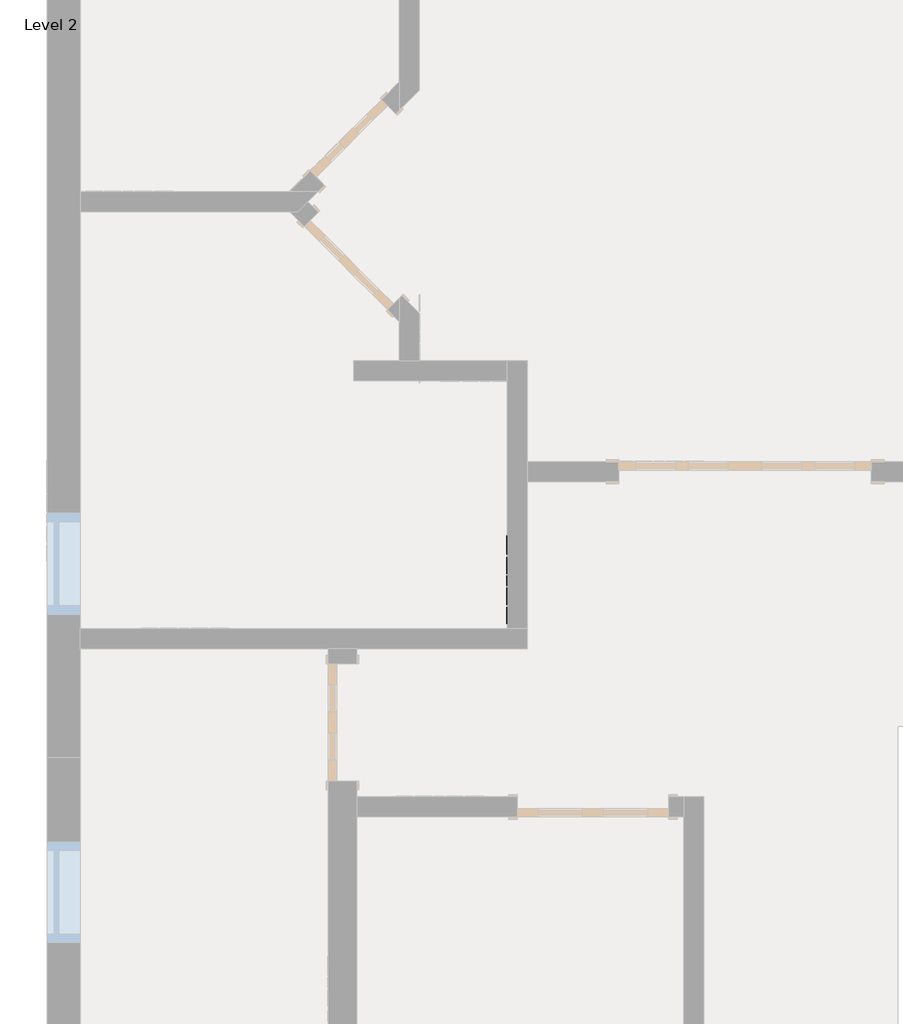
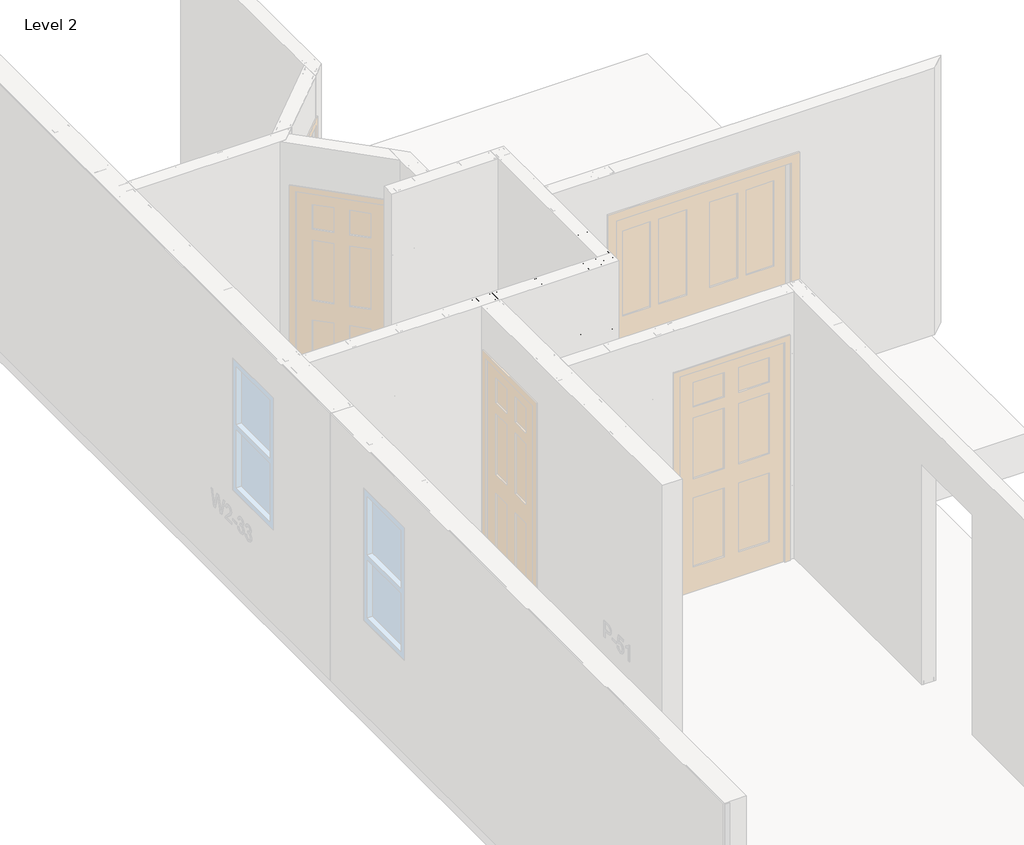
# One storey, part 26 of 46: 9 columns, 1 beam, 1 fastener.
"""IFC4 building model written with IfcOpenShell, lengths in millimetres."""

from ifc_helpers import new_model, si_unit, point, frame, origin, place, context, project, spatial, circle_curve, ellipse_curve, trimmed, transform, mapped, element, save
from ifc_brep_helpers import plane_surface, extruded_surface, advanced_brep
from components import beam_350nf150_33_2afbb7e6, column_350nf150_33_a93e9d8a, panellabel_b67d6c40

model = new_model("IFC4")

# Units and contexts
model_context = context("Model", 3, world=origin())
ifc_project = project(units=[si_unit("LENGTHUNIT", "METRE", prefix="MILLI")], contexts=[model_context])

# Site, building, storey
site = spatial("IfcSite", under=ifc_project)
building = spatial("IfcBuilding", under=site)
storey = spatial("IfcBuildingStorey", under=building, Name="Level 2", Elevation=3060.7)

# Beam
placement = place(None, origin())
beam_350nf150_33_shape = beam_350nf150_33_2afbb7e6(model_context)
element("IfcBeam", 1, ObjectType="BIMSF-SSMA-S : 350NF150-33", at=placement, inside=storey, context=model_context, shape_type="MappedRepresentation", body=[
    mapped(beam_350nf150_33_shape, transform((-12473.1163349, 9390.189721, 3076.575), x_axis=(0.0, 1.0000000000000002, 0.0), y_axis=(0.0, 0.0, -1.0000000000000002), z_axis=(-1.0000000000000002, 0.0, 0.0))),
])

# Columns
element("IfcColumn", 2, ObjectType="BIMSF-SSMA-S-Column : 350NF150-33", at=placement, inside=storey, context=model_context, shape_type="AdvancedBrep", body=[
    advanced_brep(
    [(-12517.5663349, 8671.052221, 3061.5929687), (-12517.5663349, 8582.152221, 3061.5929687), (-12555.6663349, 8582.152221, 3061.5929687), (-12555.6663349, 8587.8097367, 3061.5929687), (-12554.7840191, 8587.8097367, 3061.5929687), (-12554.7840191, 8583.0345367, 3061.5929687), (-12518.4486507, 8583.0345367, 3061.5929687), (-12518.4486507, 8670.1699052, 3061.5929687), (-12554.7840191, 8670.1699052, 3061.5929687), (-12554.7840191, 8665.3947052, 3061.5929687), (-12555.6663349, 8665.3947052, 3061.5929687), (-12555.6663349, 8671.052221, 3061.5929687), (-12517.5663349, 8671.052221, 5523.6070313), (-12517.5663349, 8582.152221, 5523.6070313), (-12517.5663349, 8613.902221, 3671.1929687), (-12517.5663349, 8639.302221, 3671.1929687), (-12517.5663349, 8613.902221, 4890.3929688), (-12517.5663349, 8639.302221, 4890.3929688), (-12555.6663349, 8582.152221, 5523.6070313), (-12555.6663349, 8587.8097367, 5523.6070313), (-12554.7840191, 8587.8097367, 5523.6070313), (-12554.7840191, 8583.0345367, 5523.6070313), (-12518.4486507, 8583.0345367, 5523.6070313), (-12518.4486507, 8670.1699052, 5523.6070313), (-12518.4486507, 8639.302221, 3671.1929687), (-12518.4486507, 8613.902221, 3671.1929687), (-12518.4486507, 8639.302221, 4890.3929688), (-12518.4486507, 8613.902221, 4890.3929688), (-12554.7840191, 8670.1699052, 5523.6070313), (-12554.7840191, 8665.3947052, 5523.6070313), (-12555.6663349, 8665.3947052, 5523.6070313), (-12555.6663349, 8671.052221, 5523.6070313)],
    [
        (0, 1),
        (1, 2),
        (2, 3),
        (3, 4),
        (4, 5),
        (5, 6),
        (6, 7),
        (7, 8),
        (8, 9),
        (9, 10),
        (10, 11),
        (11, 0),
        (0, 12),
        (12, 13),
        (13, 1),
        (14, 15, circle_curve(frame((-12517.5663349, 8626.602221, 3671.1929687), z_axis=(-1.0, 0.0, 0.0), x_axis=(0.0, -1.0, 0.0)), 12.7)),
        (15, 14, circle_curve(frame((-12517.5663349, 8626.602221, 3671.1929687), z_axis=(-1.0, 0.0, 0.0), x_axis=(0.0, -1.0, 0.0)), 12.7)),
        (16, 17, circle_curve(frame((-12517.5663349, 8626.602221, 4890.3929687), z_axis=(-1.0, 0.0, 0.0), x_axis=(0.0, -1.0, 0.0)), 12.7)),
        (17, 16, circle_curve(frame((-12517.5663349, 8626.602221, 4890.3929687), z_axis=(-1.0, 0.0, 0.0), x_axis=(0.0, -1.0, 0.0)), 12.7)),
        (13, 18),
        (18, 2),
        (18, 19),
        (19, 3),
        (19, 20),
        (20, 4),
        (20, 21),
        (21, 5),
        (21, 22),
        (22, 6),
        (22, 23),
        (23, 7),
        (24, 25, circle_curve(frame((-12518.4486507, 8626.602221, 3671.1929688), z_axis=(1.0, 0.0, 0.0), x_axis=(0.0, -1.0, 0.0)), 12.7)),
        (25, 24, circle_curve(frame((-12518.4486507, 8626.602221, 3671.1929688), z_axis=(1.0, 0.0, 0.0), x_axis=(0.0, -1.0, 0.0)), 12.7)),
        (26, 27, circle_curve(frame((-12518.4486507, 8626.602221, 4890.3929687), z_axis=(1.0, 0.0, 0.0), x_axis=(0.0, -1.0, 0.0)), 12.7)),
        (27, 26, circle_curve(frame((-12518.4486507, 8626.602221, 4890.3929687), z_axis=(1.0, 0.0, 0.0), x_axis=(0.0, -1.0, 0.0)), 12.7)),
        (23, 28),
        (28, 8),
        (28, 29),
        (29, 9),
        (29, 30),
        (30, 10),
        (30, 31),
        (31, 11),
        (31, 12),
        (24, 15),
        (14, 25),
        (26, 17),
        (16, 27),
    ],
    [
        plane_surface(frame((-12517.5663349, 8671.052221, 3061.5929687), z_axis=(0.0, 0.0, -1.0), x_axis=(1.0, 0.0, 0.0))),
        plane_surface(frame((-12517.5663349, 8582.152221, 5523.6070313), z_axis=(1.0, 0.0, 0.0), x_axis=(0.0, 0.0, -1.0))),
        plane_surface(frame((-12555.6663349, 8582.152221, 5523.6070313), z_axis=(0.0, -1.0, 0.0), x_axis=(0.0, 0.0, -1.0))),
        plane_surface(frame((-12555.6663349, 8587.8097367, 5523.6070313), z_axis=(-1.0, 0.0, 0.0), x_axis=(0.0, 0.0, -1.0))),
        plane_surface(frame((-12554.7840191, 8587.8097367, 5523.6070313), z_axis=(0.0, 1.0, 0.0), x_axis=(0.0, 0.0, -1.0))),
        plane_surface(frame((-12554.7840191, 8583.0345367, 5523.6070313), z_axis=(1.0, 0.0, 0.0), x_axis=(0.0, 0.0, -1.0))),
        plane_surface(frame((-12518.4486507, 8583.0345367, 5523.6070313), z_axis=(0.0, 1.0, 0.0), x_axis=(0.0, 0.0, -1.0))),
        plane_surface(frame((-12518.4486507, 8670.1699052, 5523.6070313), z_axis=(-1.0, 0.0, 0.0), x_axis=(0.0, 0.0, -1.0))),
        plane_surface(frame((-12554.7840191, 8670.1699052, 5523.6070313), z_axis=(0.0, -1.0, 0.0), x_axis=(0.0, 0.0, -1.0))),
        plane_surface(frame((-12554.7840191, 8665.3947052, 5523.6070313), z_axis=(1.0, 0.0, 0.0), x_axis=(0.0, 0.0, -1.0))),
        plane_surface(frame((-12555.6663349, 8665.3947052, 5523.6070313), z_axis=(0.0, -1.0, 0.0), x_axis=(0.0, 0.0, -1.0))),
        plane_surface(frame((-12555.6663349, 8671.052221, 5523.6070313), z_axis=(-1.0, 0.0, 0.0), x_axis=(0.0, 0.0, -1.0))),
        plane_surface(frame((-12517.5663349, 8671.052221, 5523.6070313), z_axis=(0.0, 1.0, 0.0), x_axis=(0.0, 0.0, -1.0))),
        plane_surface(frame((-12517.5663349, 8671.052221, 5523.6070313), z_axis=(0.0, 0.0, 1.0), x_axis=(-1.0, 0.0, 0.0))),
        extruded_surface(trimmed(ellipse_curve(frame((-14998.6303974, 8626.602221, 3671.1929688), z_axis=(1.0, 0.0, 0.0), x_axis=(0.0, -1.0, 0.0)), 12.7, 12.7), [point((-14998.6303974, 8639.302221, 3671.1929688))], [point((-14998.6303974, 8613.902221, 3671.1929688))], True, "CARTESIAN"), (-4924.028125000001, 0.0, 0.0), 4924.028125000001),
        extruded_surface(trimmed(ellipse_curve(frame((-14998.6303974, 8626.602221, 3671.1929688), z_axis=(1.0, 0.0, 0.0), x_axis=(0.0, -1.0, 0.0)), 12.7, 12.7), [point((-14998.6303974, 8613.902221, 3671.1929688))], [point((-14998.6303974, 8639.302221, 3671.1929688))], True, "CARTESIAN"), (-4924.028125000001, 0.0, 0.0), 4924.028125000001),
        extruded_surface(trimmed(ellipse_curve(frame((-14998.6303974, 8626.602221, 4890.3929687), z_axis=(1.0, 0.0, 0.0), x_axis=(0.0, -1.0, 0.0)), 12.7, 12.7), [point((-14998.6303974, 8639.302221, 4890.3929687))], [point((-14998.6303974, 8613.902221, 4890.3929687))], True, "CARTESIAN"), (-4924.028125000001, 0.0, 0.0), 4924.028125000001),
        extruded_surface(trimmed(ellipse_curve(frame((-14998.6303974, 8626.602221, 4890.3929687), z_axis=(1.0, 0.0, 0.0), x_axis=(0.0, -1.0, 0.0)), 12.7, 12.7), [point((-14998.6303974, 8613.902221, 4890.3929687))], [point((-14998.6303974, 8639.302221, 4890.3929687))], True, "CARTESIAN"), (-4924.028125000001, 0.0, 0.0), 4924.028125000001),
    ],
    [
        (0, [[1, 2, 3, 4, 5, 6, 7, 8, 9, 10, 11, 12]]),
        (1, [[-1, 13, 14, 15], [16, 17], [18, 19]]),
        (2, [[-2, -15, 20, 21]]),
        (3, [[-3, -21, 22, 23]]),
        (4, [[-4, -23, 24, 25]]),
        (5, [[-5, -25, 26, 27]]),
        (6, [[-6, -27, 28, 29]]),
        (7, [[-7, -29, 30, 31], [32, 33], [34, 35]]),
        (8, [[-8, -31, 36, 37]]),
        (9, [[-9, -37, 38, 39]]),
        (10, [[-10, -39, 40, 41]]),
        (11, [[-11, -41, 42, 43]]),
        (12, [[-12, -43, 44, -13]]),
        (13, [[-14, -44, -42, -40, -38, -36, -30, -28, -26, -24, -22, -20]]),
        (14, [[45, -16, 46, -32]]),
        (15, [[-45, -33, -46, -17]]),
        (16, [[47, -18, 48, -34]]),
        (17, [[-47, -35, -48, -19]]),
    ],
),
])
element("IfcColumn", 3, ObjectType="BIMSF-SSMA-S-Column : 350NF150-33", at=placement, inside=storey, context=model_context, shape_type="AdvancedBrep", body=[
    advanced_brep(
    [(-13517.6913349, 8582.152221, 3061.5929687), (-13517.6913349, 8671.052221, 3061.5929687), (-13479.5913349, 8671.052221, 3061.5929687), (-13479.5913349, 8665.3947052, 3061.5929687), (-13480.4736507, 8665.3947052, 3061.5929687), (-13480.4736507, 8670.1699052, 3061.5929687), (-13516.8090191, 8670.1699052, 3061.5929687), (-13516.8090191, 8583.0345367, 3061.5929687), (-13480.4736507, 8583.0345367, 3061.5929687), (-13480.4736507, 8587.8097367, 3061.5929687), (-13479.5913349, 8587.8097367, 3061.5929687), (-13479.5913349, 8582.152221, 3061.5929687), (-13517.6913349, 8582.152221, 5523.6070313), (-13517.6913349, 8671.052221, 5523.6070313), (-13517.6913349, 8639.302221, 3671.1929688), (-13517.6913349, 8613.902221, 3671.1929688), (-13517.6913349, 8639.302221, 4890.3929687), (-13517.6913349, 8613.902221, 4890.3929687), (-13479.5913349, 8671.052221, 5523.6070313), (-13479.5913349, 8665.3947052, 5523.6070313), (-13480.4736507, 8665.3947052, 5523.6070313), (-13480.4736507, 8670.1699052, 5523.6070313), (-13516.8090191, 8670.1699052, 5523.6070313), (-13516.8090191, 8583.0345367, 5523.6070313), (-13516.8090191, 8613.902221, 3671.1929688), (-13516.8090191, 8639.302221, 3671.1929688), (-13516.8090191, 8613.902221, 4890.3929687), (-13516.8090191, 8639.302221, 4890.3929687), (-13480.4736507, 8583.0345367, 5523.6070313), (-13480.4736507, 8587.8097367, 5523.6070313), (-13479.5913349, 8587.8097367, 5523.6070313), (-13479.5913349, 8582.152221, 5523.6070313)],
    [
        (0, 1),
        (1, 2),
        (2, 3),
        (3, 4),
        (4, 5),
        (5, 6),
        (6, 7),
        (7, 8),
        (8, 9),
        (9, 10),
        (10, 11),
        (11, 0),
        (0, 12),
        (12, 13),
        (13, 1),
        (14, 15, circle_curve(frame((-13517.6913349, 8626.602221, 3671.1929688), z_axis=(1.0, 0.0, 0.0), x_axis=(0.0, 1.0, 0.0)), 12.7)),
        (15, 14, circle_curve(frame((-13517.6913349, 8626.602221, 3671.1929688), z_axis=(1.0, 0.0, 0.0), x_axis=(0.0, 1.0, 0.0)), 12.7)),
        (16, 17, circle_curve(frame((-13517.6913349, 8626.602221, 4890.3929687), z_axis=(1.0, 0.0, 0.0), x_axis=(0.0, 1.0, 0.0)), 12.7)),
        (17, 16, circle_curve(frame((-13517.6913349, 8626.602221, 4890.3929687), z_axis=(1.0, 0.0, 0.0), x_axis=(0.0, 1.0, 0.0)), 12.7)),
        (13, 18),
        (18, 2),
        (18, 19),
        (19, 3),
        (19, 20),
        (20, 4),
        (20, 21),
        (21, 5),
        (21, 22),
        (22, 6),
        (22, 23),
        (23, 7),
        (24, 25, circle_curve(frame((-13516.8090191, 8626.602221, 3671.1929688), z_axis=(-1.0, 0.0, 0.0), x_axis=(0.0, 1.0, 0.0)), 12.7)),
        (25, 24, circle_curve(frame((-13516.8090191, 8626.602221, 3671.1929688), z_axis=(-1.0, 0.0, 0.0), x_axis=(0.0, 1.0, 0.0)), 12.7)),
        (26, 27, circle_curve(frame((-13516.8090191, 8626.602221, 4890.3929687), z_axis=(-1.0, 0.0, 0.0), x_axis=(0.0, 1.0, 0.0)), 12.7)),
        (27, 26, circle_curve(frame((-13516.8090191, 8626.602221, 4890.3929687), z_axis=(-1.0, 0.0, 0.0), x_axis=(0.0, 1.0, 0.0)), 12.7)),
        (23, 28),
        (28, 8),
        (28, 29),
        (29, 9),
        (29, 30),
        (30, 10),
        (30, 31),
        (31, 11),
        (31, 12),
        (24, 15),
        (14, 25),
        (26, 17),
        (16, 27),
    ],
    [
        plane_surface(frame((-13517.6913349, 8582.152221, 3061.5929687), z_axis=(0.0, 0.0, -1.0), x_axis=(-1.0, 0.0, 0.0))),
        plane_surface(frame((-13517.6913349, 8671.052221, 5523.6070313), z_axis=(-1.0, 0.0, 0.0), x_axis=(0.0, 0.0, -1.0))),
        plane_surface(frame((-13479.5913349, 8671.052221, 5523.6070313), z_axis=(0.0, 1.0, 0.0), x_axis=(0.0, 0.0, -1.0))),
        plane_surface(frame((-13479.5913349, 8665.3947052, 5523.6070313), z_axis=(1.0, 0.0, 0.0), x_axis=(0.0, 0.0, -1.0))),
        plane_surface(frame((-13480.4736507, 8665.3947052, 5523.6070313), z_axis=(0.0, -1.0, 0.0), x_axis=(0.0, 0.0, -1.0))),
        plane_surface(frame((-13480.4736507, 8670.1699052, 5523.6070313), z_axis=(-1.0, 0.0, 0.0), x_axis=(0.0, 0.0, -1.0))),
        plane_surface(frame((-13516.8090191, 8670.1699052, 5523.6070313), z_axis=(0.0, -1.0, 0.0), x_axis=(0.0, 0.0, -1.0))),
        plane_surface(frame((-13516.8090191, 8583.0345367, 5523.6070313), z_axis=(1.0, 0.0, 0.0), x_axis=(0.0, 0.0, -1.0))),
        plane_surface(frame((-13480.4736507, 8583.0345367, 5523.6070313), z_axis=(0.0, 1.0, 0.0), x_axis=(0.0, 0.0, -1.0))),
        plane_surface(frame((-13480.4736507, 8587.8097367, 5523.6070313), z_axis=(-1.0, 0.0, 0.0), x_axis=(0.0, 0.0, -1.0))),
        plane_surface(frame((-13479.5913349, 8587.8097367, 5523.6070313), z_axis=(0.0, 1.0, 0.0), x_axis=(0.0, 0.0, -1.0))),
        plane_surface(frame((-13479.5913349, 8582.152221, 5523.6070313), z_axis=(1.0, 0.0, 0.0), x_axis=(0.0, 0.0, -1.0))),
        plane_surface(frame((-13517.6913349, 8582.152221, 5523.6070313), z_axis=(0.0, -1.0, 0.0), x_axis=(0.0, 0.0, -1.0))),
        plane_surface(frame((-13517.6913349, 8582.152221, 5523.6070313), z_axis=(0.0, 0.0, 1.0), x_axis=(1.0, 0.0, 0.0))),
        extruded_surface(trimmed(ellipse_curve(frame((-11036.6272724, 8626.602221, 3671.1929688), z_axis=(-1.0, 0.0, 0.0), x_axis=(0.0, 1.0, 0.0)), 12.7, 12.7), [point((-11036.6272724, 8613.902221, 3671.1929688))], [point((-11036.6272724, 8639.302221, 3671.1929688))], True, "CARTESIAN"), (4924.028124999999, 0.0, 0.0), 4924.028124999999),
        extruded_surface(trimmed(ellipse_curve(frame((-11036.6272724, 8626.602221, 3671.1929688), z_axis=(-1.0, 0.0, 0.0), x_axis=(0.0, 1.0, 0.0)), 12.7, 12.7), [point((-11036.6272724, 8639.302221, 3671.1929688))], [point((-11036.6272724, 8613.902221, 3671.1929688))], True, "CARTESIAN"), (4924.028124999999, 0.0, 0.0), 4924.028124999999),
        extruded_surface(trimmed(ellipse_curve(frame((-11036.6272724, 8626.602221, 4890.3929687), z_axis=(-1.0, 0.0, 0.0), x_axis=(0.0, 1.0, 0.0)), 12.7, 12.7), [point((-11036.6272724, 8613.902221, 4890.3929687))], [point((-11036.6272724, 8639.302221, 4890.3929687))], True, "CARTESIAN"), (4924.028124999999, 0.0, 0.0), 4924.028124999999),
        extruded_surface(trimmed(ellipse_curve(frame((-11036.6272724, 8626.602221, 4890.3929687), z_axis=(-1.0, 0.0, 0.0), x_axis=(0.0, 1.0, 0.0)), 12.7, 12.7), [point((-11036.6272724, 8639.302221, 4890.3929687))], [point((-11036.6272724, 8613.902221, 4890.3929687))], True, "CARTESIAN"), (4924.028124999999, 0.0, 0.0), 4924.028124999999),
    ],
    [
        (0, [[1, 2, 3, 4, 5, 6, 7, 8, 9, 10, 11, 12]]),
        (1, [[-1, 13, 14, 15], [16, 17], [18, 19]]),
        (2, [[-2, -15, 20, 21]]),
        (3, [[-3, -21, 22, 23]]),
        (4, [[-4, -23, 24, 25]]),
        (5, [[-5, -25, 26, 27]]),
        (6, [[-6, -27, 28, 29]]),
        (7, [[-7, -29, 30, 31], [32, 33], [34, 35]]),
        (8, [[-8, -31, 36, 37]]),
        (9, [[-9, -37, 38, 39]]),
        (10, [[-10, -39, 40, 41]]),
        (11, [[-11, -41, 42, 43]]),
        (12, [[-12, -43, 44, -13]]),
        (13, [[-14, -44, -42, -40, -38, -36, -30, -28, -26, -24, -22, -20]]),
        (14, [[45, -16, 46, -32]]),
        (15, [[-45, -33, -46, -17]]),
        (16, [[47, -18, 48, -34]]),
        (17, [[-47, -35, -48, -19]]),
    ],
),
])
element("IfcColumn", 4, ObjectType="BIMSF-SSMA-S-Column : 350NF150-33", at=placement, inside=storey, context=model_context, shape_type="AdvancedBrep", body=[
    advanced_brep(
    [(-13111.2913349, 8582.152221, 3061.5929687), (-13111.2913349, 8671.052221, 3061.5929687), (-13073.1913349, 8671.052221, 3061.5929687), (-13073.1913349, 8665.3947052, 3061.5929687), (-13074.0736507, 8665.3947052, 3061.5929687), (-13074.0736507, 8670.1699052, 3061.5929687), (-13110.4090191, 8670.1699052, 3061.5929687), (-13110.4090191, 8583.0345367, 3061.5929687), (-13074.0736507, 8583.0345367, 3061.5929687), (-13074.0736507, 8587.8097367, 3061.5929687), (-13073.1913349, 8587.8097367, 3061.5929687), (-13073.1913349, 8582.152221, 3061.5929687), (-13111.2913349, 8582.152221, 5523.6070313), (-13111.2913349, 8671.052221, 5523.6070313), (-13111.2913349, 8639.302221, 3671.1929688), (-13111.2913349, 8613.902221, 3671.1929688), (-13111.2913349, 8639.302221, 4890.3929687), (-13111.2913349, 8613.902221, 4890.3929687), (-13073.1913349, 8671.052221, 5523.6070313), (-13073.1913349, 8665.3947052, 5523.6070313), (-13074.0736507, 8665.3947052, 5523.6070313), (-13074.0736507, 8670.1699052, 5523.6070313), (-13110.4090191, 8670.1699052, 5523.6070313), (-13110.4090191, 8583.0345367, 5523.6070313), (-13110.4090191, 8613.902221, 3671.1929688), (-13110.4090191, 8639.302221, 3671.1929688), (-13110.4090191, 8613.902221, 4890.3929687), (-13110.4090191, 8639.302221, 4890.3929687), (-13074.0736507, 8583.0345367, 5523.6070313), (-13074.0736507, 8587.8097367, 5523.6070313), (-13073.1913349, 8587.8097367, 5523.6070313), (-13073.1913349, 8582.152221, 5523.6070313)],
    [
        (0, 1),
        (1, 2),
        (2, 3),
        (3, 4),
        (4, 5),
        (5, 6),
        (6, 7),
        (7, 8),
        (8, 9),
        (9, 10),
        (10, 11),
        (11, 0),
        (0, 12),
        (12, 13),
        (13, 1),
        (14, 15, circle_curve(frame((-13111.2913349, 8626.602221, 3671.1929688), z_axis=(1.0, 0.0, 0.0), x_axis=(0.0, 1.0, 0.0)), 12.7)),
        (15, 14, circle_curve(frame((-13111.2913349, 8626.602221, 3671.1929688), z_axis=(1.0, 0.0, 0.0), x_axis=(0.0, 1.0, 0.0)), 12.7)),
        (16, 17, circle_curve(frame((-13111.2913349, 8626.602221, 4890.3929687), z_axis=(1.0, 0.0, 0.0), x_axis=(0.0, 1.0, 0.0)), 12.7)),
        (17, 16, circle_curve(frame((-13111.2913349, 8626.602221, 4890.3929687), z_axis=(1.0, 0.0, 0.0), x_axis=(0.0, 1.0, 0.0)), 12.7)),
        (13, 18),
        (18, 2),
        (18, 19),
        (19, 3),
        (19, 20),
        (20, 4),
        (20, 21),
        (21, 5),
        (21, 22),
        (22, 6),
        (22, 23),
        (23, 7),
        (24, 25, circle_curve(frame((-13110.4090191, 8626.602221, 3671.1929688), z_axis=(-1.0, 0.0, 0.0), x_axis=(0.0, 1.0, 0.0)), 12.7)),
        (25, 24, circle_curve(frame((-13110.4090191, 8626.602221, 3671.1929688), z_axis=(-1.0, 0.0, 0.0), x_axis=(0.0, 1.0, 0.0)), 12.7)),
        (26, 27, circle_curve(frame((-13110.4090191, 8626.602221, 4890.3929687), z_axis=(-1.0, 0.0, 0.0), x_axis=(0.0, 1.0, 0.0)), 12.7)),
        (27, 26, circle_curve(frame((-13110.4090191, 8626.602221, 4890.3929687), z_axis=(-1.0, 0.0, 0.0), x_axis=(0.0, 1.0, 0.0)), 12.7)),
        (23, 28),
        (28, 8),
        (28, 29),
        (29, 9),
        (29, 30),
        (30, 10),
        (30, 31),
        (31, 11),
        (31, 12),
        (24, 15),
        (14, 25),
        (26, 17),
        (16, 27),
    ],
    [
        plane_surface(frame((-13111.2913349, 8582.152221, 3061.5929687), z_axis=(0.0, 0.0, -1.0), x_axis=(-1.0, 0.0, 0.0))),
        plane_surface(frame((-13111.2913349, 8671.052221, 5523.6070313), z_axis=(-1.0, 0.0, 0.0), x_axis=(0.0, 0.0, -1.0))),
        plane_surface(frame((-13073.1913349, 8671.052221, 5523.6070313), z_axis=(0.0, 1.0, 0.0), x_axis=(0.0, 0.0, -1.0))),
        plane_surface(frame((-13073.1913349, 8665.3947052, 5523.6070313), z_axis=(1.0, 0.0, 0.0), x_axis=(0.0, 0.0, -1.0))),
        plane_surface(frame((-13074.0736507, 8665.3947052, 5523.6070313), z_axis=(0.0, -1.0, 0.0), x_axis=(0.0, 0.0, -1.0))),
        plane_surface(frame((-13074.0736507, 8670.1699052, 5523.6070313), z_axis=(-1.0, 0.0, 0.0), x_axis=(0.0, 0.0, -1.0))),
        plane_surface(frame((-13110.4090191, 8670.1699052, 5523.6070313), z_axis=(0.0, -1.0, 0.0), x_axis=(0.0, 0.0, -1.0))),
        plane_surface(frame((-13110.4090191, 8583.0345367, 5523.6070313), z_axis=(1.0, 0.0, 0.0), x_axis=(0.0, 0.0, -1.0))),
        plane_surface(frame((-13074.0736507, 8583.0345367, 5523.6070313), z_axis=(0.0, 1.0, 0.0), x_axis=(0.0, 0.0, -1.0))),
        plane_surface(frame((-13074.0736507, 8587.8097367, 5523.6070313), z_axis=(-1.0, 0.0, 0.0), x_axis=(0.0, 0.0, -1.0))),
        plane_surface(frame((-13073.1913349, 8587.8097367, 5523.6070313), z_axis=(0.0, 1.0, 0.0), x_axis=(0.0, 0.0, -1.0))),
        plane_surface(frame((-13073.1913349, 8582.152221, 5523.6070313), z_axis=(1.0, 0.0, 0.0), x_axis=(0.0, 0.0, -1.0))),
        plane_surface(frame((-13111.2913349, 8582.152221, 5523.6070313), z_axis=(0.0, -1.0, 0.0), x_axis=(0.0, 0.0, -1.0))),
        plane_surface(frame((-13111.2913349, 8582.152221, 5523.6070313), z_axis=(0.0, 0.0, 1.0), x_axis=(1.0, 0.0, 0.0))),
        extruded_surface(trimmed(ellipse_curve(frame((-10630.2272724, 8626.602221, 3671.1929688), z_axis=(-1.0, 0.0, 0.0), x_axis=(0.0, 1.0, 0.0)), 12.7, 12.7), [point((-10630.2272724, 8613.902221, 3671.1929688))], [point((-10630.2272724, 8639.302221, 3671.1929688))], True, "CARTESIAN"), (4924.028125, 0.0, 0.0), 4924.028125),
        extruded_surface(trimmed(ellipse_curve(frame((-10630.2272724, 8626.602221, 3671.1929688), z_axis=(-1.0, 0.0, 0.0), x_axis=(0.0, 1.0, 0.0)), 12.7, 12.7), [point((-10630.2272724, 8639.302221, 3671.1929688))], [point((-10630.2272724, 8613.902221, 3671.1929688))], True, "CARTESIAN"), (4924.028125, 0.0, 0.0), 4924.028125),
        extruded_surface(trimmed(ellipse_curve(frame((-10630.2272724, 8626.602221, 4890.3929687), z_axis=(-1.0, 0.0, 0.0), x_axis=(0.0, 1.0, 0.0)), 12.7, 12.7), [point((-10630.2272724, 8613.902221, 4890.3929687))], [point((-10630.2272724, 8639.302221, 4890.3929687))], True, "CARTESIAN"), (4924.028125, 0.0, 0.0), 4924.028125),
        extruded_surface(trimmed(ellipse_curve(frame((-10630.2272724, 8626.602221, 4890.3929687), z_axis=(-1.0, 0.0, 0.0), x_axis=(0.0, 1.0, 0.0)), 12.7, 12.7), [point((-10630.2272724, 8639.302221, 4890.3929687))], [point((-10630.2272724, 8613.902221, 4890.3929687))], True, "CARTESIAN"), (4924.028125, 0.0, 0.0), 4924.028125),
    ],
    [
        (0, [[1, 2, 3, 4, 5, 6, 7, 8, 9, 10, 11, 12]]),
        (1, [[-1, 13, 14, 15], [16, 17], [18, 19]]),
        (2, [[-2, -15, 20, 21]]),
        (3, [[-3, -21, 22, 23]]),
        (4, [[-4, -23, 24, 25]]),
        (5, [[-5, -25, 26, 27]]),
        (6, [[-6, -27, 28, 29]]),
        (7, [[-7, -29, 30, 31], [32, 33], [34, 35]]),
        (8, [[-8, -31, 36, 37]]),
        (9, [[-9, -37, 38, 39]]),
        (10, [[-10, -39, 40, 41]]),
        (11, [[-11, -41, 42, 43]]),
        (12, [[-12, -43, 44, -13]]),
        (13, [[-14, -44, -42, -40, -38, -36, -30, -28, -26, -24, -22, -20]]),
        (14, [[45, -16, 46, -32]]),
        (15, [[-45, -33, -46, -17]]),
        (16, [[47, -18, 48, -34]]),
        (17, [[-47, -35, -48, -19]]),
    ],
),
])
element("IfcColumn", 5, ObjectType="BIMSF-SSMA-S-Column : 350NF150-33", at=placement, inside=storey, context=model_context, shape_type="AdvancedBrep", body=[
    advanced_brep(
    [(-12704.8913349, 8582.152221, 3061.5929687), (-12704.8913349, 8671.052221, 3061.5929687), (-12666.7913349, 8671.052221, 3061.5929687), (-12666.7913349, 8665.3947052, 3061.5929687), (-12667.6736507, 8665.3947052, 3061.5929687), (-12667.6736507, 8670.1699052, 3061.5929687), (-12704.0090191, 8670.1699052, 3061.5929687), (-12704.0090191, 8583.0345367, 3061.5929687), (-12667.6736507, 8583.0345367, 3061.5929687), (-12667.6736507, 8587.8097367, 3061.5929687), (-12666.7913349, 8587.8097367, 3061.5929687), (-12666.7913349, 8582.152221, 3061.5929687), (-12704.8913349, 8582.152221, 5523.6070313), (-12704.8913349, 8671.052221, 5523.6070313), (-12704.8913349, 8639.302221, 3671.1929688), (-12704.8913349, 8613.902221, 3671.1929688), (-12704.8913349, 8639.302221, 4890.3929687), (-12704.8913349, 8613.902221, 4890.3929687), (-12666.7913349, 8671.052221, 5523.6070313), (-12666.7913349, 8665.3947052, 5523.6070313), (-12667.6736507, 8665.3947052, 5523.6070313), (-12667.6736507, 8670.1699052, 5523.6070313), (-12704.0090191, 8670.1699052, 5523.6070313), (-12704.0090191, 8583.0345367, 5523.6070313), (-12704.0090191, 8613.902221, 3671.1929688), (-12704.0090191, 8639.302221, 3671.1929688), (-12704.0090191, 8613.902221, 4890.3929687), (-12704.0090191, 8639.302221, 4890.3929687), (-12667.6736507, 8583.0345367, 5523.6070313), (-12667.6736507, 8587.8097367, 5523.6070313), (-12666.7913349, 8587.8097367, 5523.6070313), (-12666.7913349, 8582.152221, 5523.6070313)],
    [
        (0, 1),
        (1, 2),
        (2, 3),
        (3, 4),
        (4, 5),
        (5, 6),
        (6, 7),
        (7, 8),
        (8, 9),
        (9, 10),
        (10, 11),
        (11, 0),
        (0, 12),
        (12, 13),
        (13, 1),
        (14, 15, circle_curve(frame((-12704.8913349, 8626.602221, 3671.1929687), z_axis=(1.0, 0.0, 0.0), x_axis=(0.0, 1.0, 0.0)), 12.7)),
        (15, 14, circle_curve(frame((-12704.8913349, 8626.602221, 3671.1929687), z_axis=(1.0, 0.0, 0.0), x_axis=(0.0, 1.0, 0.0)), 12.7)),
        (16, 17, circle_curve(frame((-12704.8913349, 8626.602221, 4890.3929687), z_axis=(1.0, 0.0, 0.0), x_axis=(0.0, 1.0, 0.0)), 12.7)),
        (17, 16, circle_curve(frame((-12704.8913349, 8626.602221, 4890.3929687), z_axis=(1.0, 0.0, 0.0), x_axis=(0.0, 1.0, 0.0)), 12.7)),
        (13, 18),
        (18, 2),
        (18, 19),
        (19, 3),
        (19, 20),
        (20, 4),
        (20, 21),
        (21, 5),
        (21, 22),
        (22, 6),
        (22, 23),
        (23, 7),
        (24, 25, circle_curve(frame((-12704.0090191, 8626.602221, 3671.1929688), z_axis=(-1.0, 0.0, 0.0), x_axis=(0.0, 1.0, 0.0)), 12.7)),
        (25, 24, circle_curve(frame((-12704.0090191, 8626.602221, 3671.1929688), z_axis=(-1.0, 0.0, 0.0), x_axis=(0.0, 1.0, 0.0)), 12.7)),
        (26, 27, circle_curve(frame((-12704.0090191, 8626.602221, 4890.3929687), z_axis=(-1.0, 0.0, 0.0), x_axis=(0.0, 1.0, 0.0)), 12.7)),
        (27, 26, circle_curve(frame((-12704.0090191, 8626.602221, 4890.3929687), z_axis=(-1.0, 0.0, 0.0), x_axis=(0.0, 1.0, 0.0)), 12.7)),
        (23, 28),
        (28, 8),
        (28, 29),
        (29, 9),
        (29, 30),
        (30, 10),
        (30, 31),
        (31, 11),
        (31, 12),
        (24, 15),
        (14, 25),
        (26, 17),
        (16, 27),
    ],
    [
        plane_surface(frame((-12704.8913349, 8582.152221, 3061.5929687), z_axis=(0.0, 0.0, -1.0), x_axis=(-1.0, 0.0, 0.0))),
        plane_surface(frame((-12704.8913349, 8671.052221, 5523.6070313), z_axis=(-1.0, 0.0, 0.0), x_axis=(0.0, 0.0, -1.0))),
        plane_surface(frame((-12666.7913349, 8671.052221, 5523.6070313), z_axis=(0.0, 1.0, 0.0), x_axis=(0.0, 0.0, -1.0))),
        plane_surface(frame((-12666.7913349, 8665.3947052, 5523.6070313), z_axis=(1.0, 0.0, 0.0), x_axis=(0.0, 0.0, -1.0))),
        plane_surface(frame((-12667.6736507, 8665.3947052, 5523.6070313), z_axis=(0.0, -1.0, 0.0), x_axis=(0.0, 0.0, -1.0))),
        plane_surface(frame((-12667.6736507, 8670.1699052, 5523.6070313), z_axis=(-1.0, 0.0, 0.0), x_axis=(0.0, 0.0, -1.0))),
        plane_surface(frame((-12704.0090191, 8670.1699052, 5523.6070313), z_axis=(0.0, -1.0, 0.0), x_axis=(0.0, 0.0, -1.0))),
        plane_surface(frame((-12704.0090191, 8583.0345367, 5523.6070313), z_axis=(1.0, 0.0, 0.0), x_axis=(0.0, 0.0, -1.0))),
        plane_surface(frame((-12667.6736507, 8583.0345367, 5523.6070313), z_axis=(0.0, 1.0, 0.0), x_axis=(0.0, 0.0, -1.0))),
        plane_surface(frame((-12667.6736507, 8587.8097367, 5523.6070313), z_axis=(-1.0, 0.0, 0.0), x_axis=(0.0, 0.0, -1.0))),
        plane_surface(frame((-12666.7913349, 8587.8097367, 5523.6070313), z_axis=(0.0, 1.0, 0.0), x_axis=(0.0, 0.0, -1.0))),
        plane_surface(frame((-12666.7913349, 8582.152221, 5523.6070313), z_axis=(1.0, 0.0, 0.0), x_axis=(0.0, 0.0, -1.0))),
        plane_surface(frame((-12704.8913349, 8582.152221, 5523.6070313), z_axis=(0.0, -1.0, 0.0), x_axis=(0.0, 0.0, -1.0))),
        plane_surface(frame((-12704.8913349, 8582.152221, 5523.6070313), z_axis=(0.0, 0.0, 1.0), x_axis=(1.0, 0.0, 0.0))),
        extruded_surface(trimmed(ellipse_curve(frame((-10223.8272724, 8626.602221, 3671.1929688), z_axis=(-1.0, 0.0, 0.0), x_axis=(0.0, 1.0, 0.0)), 12.7, 12.7), [point((-10223.8272724, 8613.902221, 3671.1929688))], [point((-10223.8272724, 8639.302221, 3671.1929688))], True, "CARTESIAN"), (4924.028125, 0.0, 0.0), 4924.028125),
        extruded_surface(trimmed(ellipse_curve(frame((-10223.8272724, 8626.602221, 3671.1929688), z_axis=(-1.0, 0.0, 0.0), x_axis=(0.0, 1.0, 0.0)), 12.7, 12.7), [point((-10223.8272724, 8639.302221, 3671.1929688))], [point((-10223.8272724, 8613.902221, 3671.1929688))], True, "CARTESIAN"), (4924.028125, 0.0, 0.0), 4924.028125),
        extruded_surface(trimmed(ellipse_curve(frame((-10223.8272724, 8626.602221, 4890.3929687), z_axis=(-1.0, 0.0, 0.0), x_axis=(0.0, 1.0, 0.0)), 12.7, 12.7), [point((-10223.8272724, 8613.902221, 4890.3929687))], [point((-10223.8272724, 8639.302221, 4890.3929687))], True, "CARTESIAN"), (4924.028125, 0.0, 0.0), 4924.028125),
        extruded_surface(trimmed(ellipse_curve(frame((-10223.8272724, 8626.602221, 4890.3929687), z_axis=(-1.0, 0.0, 0.0), x_axis=(0.0, 1.0, 0.0)), 12.7, 12.7), [point((-10223.8272724, 8639.302221, 4890.3929687))], [point((-10223.8272724, 8613.902221, 4890.3929687))], True, "CARTESIAN"), (4924.028125, 0.0, 0.0), 4924.028125),
    ],
    [
        (0, [[1, 2, 3, 4, 5, 6, 7, 8, 9, 10, 11, 12]]),
        (1, [[-1, 13, 14, 15], [16, 17], [18, 19]]),
        (2, [[-2, -15, 20, 21]]),
        (3, [[-3, -21, 22, 23]]),
        (4, [[-4, -23, 24, 25]]),
        (5, [[-5, -25, 26, 27]]),
        (6, [[-6, -27, 28, 29]]),
        (7, [[-7, -29, 30, 31], [32, 33], [34, 35]]),
        (8, [[-8, -31, 36, 37]]),
        (9, [[-9, -37, 38, 39]]),
        (10, [[-10, -39, 40, 41]]),
        (11, [[-11, -41, 42, 43]]),
        (12, [[-12, -43, 44, -13]]),
        (13, [[-14, -44, -42, -40, -38, -36, -30, -28, -26, -24, -22, -20]]),
        (14, [[45, -16, 46, -32]]),
        (15, [[-45, -33, -46, -17]]),
        (16, [[47, -18, 48, -34]]),
        (17, [[-47, -35, -48, -19]]),
    ],
),
])
element("IfcColumn", 6, ObjectType="BIMSF-SSMA-S-Column : 350NF150-33", at=placement, inside=storey, context=model_context, shape_type="AdvancedBrep", body=[
    advanced_brep(
    [(-12428.6663349, 8582.152221, 3061.5929687), (-12517.5663349, 8582.152221, 3061.5929687), (-12517.5663349, 8620.252221, 3061.5929687), (-12511.9088191, 8620.252221, 3061.5929687), (-12511.9088191, 8619.3699052, 3061.5929687), (-12516.6840191, 8619.3699052, 3061.5929687), (-12516.6840191, 8583.0345367, 3061.5929687), (-12429.5486507, 8583.0345367, 3061.5929687), (-12429.5486507, 8619.3699052, 3061.5929687), (-12434.3238507, 8619.3699052, 3061.5929687), (-12434.3238507, 8620.252221, 3061.5929687), (-12428.6663349, 8620.252221, 3061.5929687), (-12428.6663349, 8582.152221, 5523.6070313), (-12517.5663349, 8582.152221, 5523.6070313), (-12485.8163349, 8582.152221, 3671.1929688), (-12460.4163349, 8582.152221, 3671.1929687), (-12485.8163349, 8582.152221, 4890.3929688), (-12460.4163349, 8582.152221, 4890.3929687), (-12517.5663349, 8620.252221, 5523.6070313), (-12511.9088191, 8620.252221, 5523.6070313), (-12511.9088191, 8619.3699052, 5523.6070313), (-12516.6840191, 8619.3699052, 5523.6070313), (-12516.6840191, 8583.0345367, 5523.6070313), (-12429.5486507, 8583.0345367, 5523.6070313), (-12460.4163349, 8583.0345367, 3671.1929687), (-12485.8163349, 8583.0345367, 3671.1929688), (-12460.4163349, 8583.0345367, 4890.3929688), (-12485.8163349, 8583.0345367, 4890.3929688), (-12429.5486507, 8619.3699052, 5523.6070313), (-12434.3238507, 8619.3699052, 5523.6070313), (-12434.3238507, 8620.252221, 5523.6070313), (-12428.6663349, 8620.252221, 5523.6070313)],
    [
        (0, 1),
        (1, 2),
        (2, 3),
        (3, 4),
        (4, 5),
        (5, 6),
        (6, 7),
        (7, 8),
        (8, 9),
        (9, 10),
        (10, 11),
        (11, 0),
        (0, 12),
        (12, 13),
        (13, 1),
        (14, 15, circle_curve(frame((-12473.1163349, 8582.152221, 3671.1929688), z_axis=(0.0, 1.0, 0.0), x_axis=(-1.0, 0.0, 0.0)), 12.7)),
        (15, 14, circle_curve(frame((-12473.1163349, 8582.152221, 3671.1929688), z_axis=(0.0, 1.0, 0.0), x_axis=(-1.0, 0.0, 0.0)), 12.7)),
        (16, 17, circle_curve(frame((-12473.1163349, 8582.152221, 4890.3929687), z_axis=(0.0, 1.0, 0.0), x_axis=(-1.0, 0.0, 0.0)), 12.7)),
        (17, 16, circle_curve(frame((-12473.1163349, 8582.152221, 4890.3929687), z_axis=(0.0, 1.0, 0.0), x_axis=(-1.0, 0.0, 0.0)), 12.7)),
        (13, 18),
        (18, 2),
        (18, 19),
        (19, 3),
        (19, 20),
        (20, 4),
        (20, 21),
        (21, 5),
        (21, 22),
        (22, 6),
        (22, 23),
        (23, 7),
        (24, 25, circle_curve(frame((-12473.1163349, 8583.0345367, 3671.1929687), z_axis=(0.0, -1.0, 0.0), x_axis=(-1.0, 0.0, 0.0)), 12.7)),
        (25, 24, circle_curve(frame((-12473.1163349, 8583.0345367, 3671.1929687), z_axis=(0.0, -1.0, 0.0), x_axis=(-1.0, 0.0, 0.0)), 12.7)),
        (26, 27, circle_curve(frame((-12473.1163349, 8583.0345367, 4890.3929687), z_axis=(0.0, -1.0, 0.0), x_axis=(-1.0, 0.0, 0.0)), 12.7)),
        (27, 26, circle_curve(frame((-12473.1163349, 8583.0345367, 4890.3929687), z_axis=(0.0, -1.0, 0.0), x_axis=(-1.0, 0.0, 0.0)), 12.7)),
        (23, 28),
        (28, 8),
        (28, 29),
        (29, 9),
        (29, 30),
        (30, 10),
        (30, 31),
        (31, 11),
        (31, 12),
        (24, 15),
        (14, 25),
        (26, 17),
        (16, 27),
    ],
    [
        plane_surface(frame((-12428.6663349, 8582.152221, 3061.5929687), z_axis=(0.0, 0.0, -1.0), x_axis=(0.0, -1.0, 0.0))),
        plane_surface(frame((-12517.5663349, 8582.152221, 5523.6070313), z_axis=(0.0, -1.0, 0.0), x_axis=(0.0, 0.0, -1.0))),
        plane_surface(frame((-12517.5663349, 8620.252221, 5523.6070313), z_axis=(-1.0, 0.0, 0.0), x_axis=(0.0, 0.0, -1.0))),
        plane_surface(frame((-12511.9088191, 8620.252221, 5523.6070313), z_axis=(0.0, 1.0, 0.0), x_axis=(0.0, 0.0, -1.0))),
        plane_surface(frame((-12511.9088191, 8619.3699052, 5523.6070313), z_axis=(1.0, 0.0, 0.0), x_axis=(0.0, 0.0, -1.0))),
        plane_surface(frame((-12516.6840191, 8619.3699052, 5523.6070313), z_axis=(0.0, -1.0, 0.0), x_axis=(0.0, 0.0, -1.0))),
        plane_surface(frame((-12516.6840191, 8583.0345367, 5523.6070313), z_axis=(1.0, 0.0, 0.0), x_axis=(0.0, 0.0, -1.0))),
        plane_surface(frame((-12429.5486507, 8583.0345367, 5523.6070313), z_axis=(0.0, 1.0, 0.0), x_axis=(0.0, 0.0, -1.0))),
        plane_surface(frame((-12429.5486507, 8619.3699052, 5523.6070313), z_axis=(-1.0, 0.0, 0.0), x_axis=(0.0, 0.0, -1.0))),
        plane_surface(frame((-12434.3238507, 8619.3699052, 5523.6070313), z_axis=(0.0, -1.0, 0.0), x_axis=(0.0, 0.0, -1.0))),
        plane_surface(frame((-12434.3238507, 8620.252221, 5523.6070313), z_axis=(-1.0, 0.0, 0.0), x_axis=(0.0, 0.0, -1.0))),
        plane_surface(frame((-12428.6663349, 8620.252221, 5523.6070313), z_axis=(0.0, 1.0, 0.0), x_axis=(0.0, 0.0, -1.0))),
        plane_surface(frame((-12428.6663349, 8582.152221, 5523.6070313), z_axis=(1.0, 0.0, 0.0), x_axis=(0.0, 0.0, -1.0))),
        plane_surface(frame((-12428.6663349, 8582.152221, 5523.6070313), z_axis=(0.0, 0.0, 1.0), x_axis=(0.0, 1.0, 0.0))),
        extruded_surface(trimmed(ellipse_curve(frame((-12473.1163349, 11063.2162835, 3671.1929688), z_axis=(0.0, -1.0, 0.0), x_axis=(-1.0, 0.0, 0.0)), 12.7, 12.7), [point((-12460.4163349, 11063.2162835, 3671.1929688))], [point((-12485.8163349, 11063.2162835, 3671.1929688))], True, "CARTESIAN"), (0.0, 4924.028125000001, 0.0), 4924.028125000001),
        extruded_surface(trimmed(ellipse_curve(frame((-12473.1163349, 11063.2162835, 3671.1929688), z_axis=(0.0, -1.0, 0.0), x_axis=(-1.0, 0.0, 0.0)), 12.7, 12.7), [point((-12485.8163349, 11063.2162835, 3671.1929688))], [point((-12460.4163349, 11063.2162835, 3671.1929688))], True, "CARTESIAN"), (0.0, 4924.028125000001, 0.0), 4924.028125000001),
        extruded_surface(trimmed(ellipse_curve(frame((-12473.1163349, 11063.2162835, 4890.3929687), z_axis=(0.0, -1.0, 0.0), x_axis=(-1.0, 0.0, 0.0)), 12.7, 12.7), [point((-12460.4163349, 11063.2162835, 4890.3929687))], [point((-12485.8163349, 11063.2162835, 4890.3929687))], True, "CARTESIAN"), (0.0, 4924.028125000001, 0.0), 4924.028125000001),
        extruded_surface(trimmed(ellipse_curve(frame((-12473.1163349, 11063.2162835, 4890.3929687), z_axis=(0.0, -1.0, 0.0), x_axis=(-1.0, 0.0, 0.0)), 12.7, 12.7), [point((-12485.8163349, 11063.2162835, 4890.3929687))], [point((-12460.4163349, 11063.2162835, 4890.3929687))], True, "CARTESIAN"), (0.0, 4924.028125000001, 0.0), 4924.028125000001),
    ],
    [
        (0, [[1, 2, 3, 4, 5, 6, 7, 8, 9, 10, 11, 12]]),
        (1, [[-1, 13, 14, 15], [16, 17], [18, 19]]),
        (2, [[-2, -15, 20, 21]]),
        (3, [[-3, -21, 22, 23]]),
        (4, [[-4, -23, 24, 25]]),
        (5, [[-5, -25, 26, 27]]),
        (6, [[-6, -27, 28, 29]]),
        (7, [[-7, -29, 30, 31], [32, 33], [34, 35]]),
        (8, [[-8, -31, 36, 37]]),
        (9, [[-9, -37, 38, 39]]),
        (10, [[-10, -39, 40, 41]]),
        (11, [[-11, -41, 42, 43]]),
        (12, [[-12, -43, 44, -13]]),
        (13, [[-14, -44, -42, -40, -38, -36, -30, -28, -26, -24, -22, -20]]),
        (14, [[45, -16, 46, -32]]),
        (15, [[-45, -33, -46, -17]]),
        (16, [[47, -18, 48, -34]]),
        (17, [[-47, -35, -48, -19]]),
    ],
),
])
element("IfcColumn", 7, ObjectType="BIMSF-SSMA-S-Column : 350NF150-33", at=placement, inside=storey, context=model_context, shape_type="AdvancedBrep", body=[
    advanced_brep(
    [(-12428.6663349, 8969.502221, 3061.5929687), (-12517.5663349, 8969.502221, 3061.5929687), (-12517.5663349, 9007.602221, 3061.5929687), (-12511.9088191, 9007.602221, 3061.5929687), (-12511.9088191, 9006.7199052, 3061.5929687), (-12516.6840191, 9006.7199052, 3061.5929687), (-12516.6840191, 8970.3845367, 3061.5929687), (-12429.5486507, 8970.3845367, 3061.5929687), (-12429.5486507, 9006.7199052, 3061.5929687), (-12434.3238507, 9006.7199052, 3061.5929687), (-12434.3238507, 9007.602221, 3061.5929687), (-12428.6663349, 9007.602221, 3061.5929687), (-12428.6663349, 8969.502221, 5523.6070313), (-12517.5663349, 8969.502221, 5523.6070313), (-12485.8163349, 8969.502221, 3671.1929688), (-12460.4163349, 8969.502221, 3671.1929687), (-12485.8163349, 8969.502221, 4890.3929688), (-12460.4163349, 8969.502221, 4890.3929687), (-12517.5663349, 9007.602221, 5523.6070313), (-12511.9088191, 9007.602221, 5523.6070313), (-12511.9088191, 9006.7199052, 5523.6070313), (-12516.6840191, 9006.7199052, 5523.6070313), (-12516.6840191, 8970.3845367, 5523.6070313), (-12429.5486507, 8970.3845367, 5523.6070313), (-12460.4163349, 8970.3845367, 3671.1929687), (-12485.8163349, 8970.3845367, 3671.1929688), (-12460.4163349, 8970.3845367, 4890.3929688), (-12485.8163349, 8970.3845367, 4890.3929688), (-12429.5486507, 9006.7199052, 5523.6070313), (-12434.3238507, 9006.7199052, 5523.6070313), (-12434.3238507, 9007.602221, 5523.6070313), (-12428.6663349, 9007.602221, 5523.6070313)],
    [
        (0, 1),
        (1, 2),
        (2, 3),
        (3, 4),
        (4, 5),
        (5, 6),
        (6, 7),
        (7, 8),
        (8, 9),
        (9, 10),
        (10, 11),
        (11, 0),
        (0, 12),
        (12, 13),
        (13, 1),
        (14, 15, circle_curve(frame((-12473.1163349, 8969.502221, 3671.1929688), z_axis=(0.0, 1.0, 0.0), x_axis=(-1.0, 0.0, 0.0)), 12.7)),
        (15, 14, circle_curve(frame((-12473.1163349, 8969.502221, 3671.1929688), z_axis=(0.0, 1.0, 0.0), x_axis=(-1.0, 0.0, 0.0)), 12.7)),
        (16, 17, circle_curve(frame((-12473.1163349, 8969.502221, 4890.3929687), z_axis=(0.0, 1.0, 0.0), x_axis=(-1.0, 0.0, 0.0)), 12.7)),
        (17, 16, circle_curve(frame((-12473.1163349, 8969.502221, 4890.3929687), z_axis=(0.0, 1.0, 0.0), x_axis=(-1.0, 0.0, 0.0)), 12.7)),
        (13, 18),
        (18, 2),
        (18, 19),
        (19, 3),
        (19, 20),
        (20, 4),
        (20, 21),
        (21, 5),
        (21, 22),
        (22, 6),
        (22, 23),
        (23, 7),
        (24, 25, circle_curve(frame((-12473.1163349, 8970.3845367, 3671.1929687), z_axis=(0.0, -1.0, 0.0), x_axis=(-1.0, 0.0, 0.0)), 12.7)),
        (25, 24, circle_curve(frame((-12473.1163349, 8970.3845367, 3671.1929687), z_axis=(0.0, -1.0, 0.0), x_axis=(-1.0, 0.0, 0.0)), 12.7)),
        (26, 27, circle_curve(frame((-12473.1163349, 8970.3845367, 4890.3929687), z_axis=(0.0, -1.0, 0.0), x_axis=(-1.0, 0.0, 0.0)), 12.7)),
        (27, 26, circle_curve(frame((-12473.1163349, 8970.3845367, 4890.3929687), z_axis=(0.0, -1.0, 0.0), x_axis=(-1.0, 0.0, 0.0)), 12.7)),
        (23, 28),
        (28, 8),
        (28, 29),
        (29, 9),
        (29, 30),
        (30, 10),
        (30, 31),
        (31, 11),
        (31, 12),
        (24, 15),
        (14, 25),
        (26, 17),
        (16, 27),
    ],
    [
        plane_surface(frame((-12428.6663349, 8969.502221, 3061.5929687), z_axis=(0.0, 0.0, -1.0), x_axis=(0.0, -1.0, 0.0))),
        plane_surface(frame((-12517.5663349, 8969.502221, 5523.6070313), z_axis=(0.0, -1.0, 0.0), x_axis=(0.0, 0.0, -1.0))),
        plane_surface(frame((-12517.5663349, 9007.602221, 5523.6070313), z_axis=(-1.0, 0.0, 0.0), x_axis=(0.0, 0.0, -1.0))),
        plane_surface(frame((-12511.9088191, 9007.602221, 5523.6070313), z_axis=(0.0, 1.0, 0.0), x_axis=(0.0, 0.0, -1.0))),
        plane_surface(frame((-12511.9088191, 9006.7199052, 5523.6070313), z_axis=(1.0, 0.0, 0.0), x_axis=(0.0, 0.0, -1.0))),
        plane_surface(frame((-12516.6840191, 9006.7199052, 5523.6070313), z_axis=(0.0, -1.0, 0.0), x_axis=(0.0, 0.0, -1.0))),
        plane_surface(frame((-12516.6840191, 8970.3845367, 5523.6070313), z_axis=(1.0, 0.0, 0.0), x_axis=(0.0, 0.0, -1.0))),
        plane_surface(frame((-12429.5486507, 8970.3845367, 5523.6070313), z_axis=(0.0, 1.0, 0.0), x_axis=(0.0, 0.0, -1.0))),
        plane_surface(frame((-12429.5486507, 9006.7199052, 5523.6070313), z_axis=(-1.0, 0.0, 0.0), x_axis=(0.0, 0.0, -1.0))),
        plane_surface(frame((-12434.3238507, 9006.7199052, 5523.6070313), z_axis=(0.0, -1.0, 0.0), x_axis=(0.0, 0.0, -1.0))),
        plane_surface(frame((-12434.3238507, 9007.602221, 5523.6070313), z_axis=(-1.0, 0.0, 0.0), x_axis=(0.0, 0.0, -1.0))),
        plane_surface(frame((-12428.6663349, 9007.602221, 5523.6070313), z_axis=(0.0, 1.0, 0.0), x_axis=(0.0, 0.0, -1.0))),
        plane_surface(frame((-12428.6663349, 8969.502221, 5523.6070313), z_axis=(1.0, 0.0, 0.0), x_axis=(0.0, 0.0, -1.0))),
        plane_surface(frame((-12428.6663349, 8969.502221, 5523.6070313), z_axis=(0.0, 0.0, 1.0), x_axis=(0.0, 1.0, 0.0))),
        extruded_surface(trimmed(ellipse_curve(frame((-12473.1163349, 11450.5662835, 3671.1929688), z_axis=(0.0, -1.0, 0.0), x_axis=(-1.0, 0.0, 0.0)), 12.7, 12.7), [point((-12460.4163349, 11450.5662835, 3671.1929688))], [point((-12485.8163349, 11450.5662835, 3671.1929688))], True, "CARTESIAN"), (0.0, 4924.028124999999, 0.0), 4924.028124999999),
        extruded_surface(trimmed(ellipse_curve(frame((-12473.1163349, 11450.5662835, 3671.1929688), z_axis=(0.0, -1.0, 0.0), x_axis=(-1.0, 0.0, 0.0)), 12.7, 12.7), [point((-12485.8163349, 11450.5662835, 3671.1929688))], [point((-12460.4163349, 11450.5662835, 3671.1929688))], True, "CARTESIAN"), (0.0, 4924.028124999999, 0.0), 4924.028124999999),
        extruded_surface(trimmed(ellipse_curve(frame((-12473.1163349, 11450.5662835, 4890.3929687), z_axis=(0.0, -1.0, 0.0), x_axis=(-1.0, 0.0, 0.0)), 12.7, 12.7), [point((-12460.4163349, 11450.5662835, 4890.3929687))], [point((-12485.8163349, 11450.5662835, 4890.3929687))], True, "CARTESIAN"), (0.0, 4924.028124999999, 0.0), 4924.028124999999),
        extruded_surface(trimmed(ellipse_curve(frame((-12473.1163349, 11450.5662835, 4890.3929687), z_axis=(0.0, -1.0, 0.0), x_axis=(-1.0, 0.0, 0.0)), 12.7, 12.7), [point((-12485.8163349, 11450.5662835, 4890.3929687))], [point((-12460.4163349, 11450.5662835, 4890.3929687))], True, "CARTESIAN"), (0.0, 4924.028124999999, 0.0), 4924.028124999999),
    ],
    [
        (0, [[1, 2, 3, 4, 5, 6, 7, 8, 9, 10, 11, 12]]),
        (1, [[-1, 13, 14, 15], [16, 17], [18, 19]]),
        (2, [[-2, -15, 20, 21]]),
        (3, [[-3, -21, 22, 23]]),
        (4, [[-4, -23, 24, 25]]),
        (5, [[-5, -25, 26, 27]]),
        (6, [[-6, -27, 28, 29]]),
        (7, [[-7, -29, 30, 31], [32, 33], [34, 35]]),
        (8, [[-8, -31, 36, 37]]),
        (9, [[-9, -37, 38, 39]]),
        (10, [[-10, -39, 40, 41]]),
        (11, [[-11, -41, 42, 43]]),
        (12, [[-12, -43, 44, -13]]),
        (13, [[-14, -44, -42, -40, -38, -36, -30, -28, -26, -24, -22, -20]]),
        (14, [[45, -16, 46, -32]]),
        (15, [[-45, -33, -46, -17]]),
        (16, [[47, -18, 48, -34]]),
        (17, [[-47, -35, -48, -19]]),
    ],
),
])
column_350nf150_33_shape = column_350nf150_33_a93e9d8a(model_context)
element("IfcColumn", 8, ObjectType="BIMSF-SSMA-S-Column : 350NF150-33", at=placement, inside=storey, context=model_context, shape_type="MappedRepresentation", body=[
    mapped(column_350nf150_33_shape, transform((-13445.3685471, 8637.3393459, 0.0), x_axis=(1.0, 0.0, 0.0), y_axis=(0.0, 1.0, 0.0), z_axis=(0.0, 0.0, 1.0))),
])
element("IfcColumn", 9, ObjectType="BIMSF-SSMA-S-Column : 350NF150-33", at=placement, inside=storey, context=model_context, shape_type="MappedRepresentation", body=[
    mapped(column_350nf150_33_shape, transform((-13609.0641226, 8615.865096, 0.0), x_axis=(-1.0, 0.0, 0.0), y_axis=(0.0, -1.0, 0.0), z_axis=(0.0, 0.0, 1.0))),
])
element("IfcColumn", 10, ObjectType="BIMSF-SSMA-S-Column : 350NF150-33", at=placement, inside=storey, context=model_context, shape_type="MappedRepresentation", body=[
    mapped(column_350nf150_33_shape, transform((-12483.8534598, 8683.0500087, 0.0), x_axis=(0.0, 1.0, 0.0), y_axis=(-1.0, 0.0, 0.0), z_axis=(0.0, 0.0, 1.0))),
])

# Fastener
panellabel_shape = panellabel_b67d6c40(model_context)
element("IfcFastener", 11, ObjectType="PanelLabel : Miranda", at=placement, inside=storey, context=model_context, shape_type="MappedRepresentation", body=[
    mapped(panellabel_shape, transform((-12473.1163349, 8986.170971, 2289.7232245), x_axis=(0.0, 1.0, 0.0), y_axis=(-1.0, 0.0, 0.0), z_axis=(0.0, 0.0, 1.0))),
])

save(model, "model.ifc")
